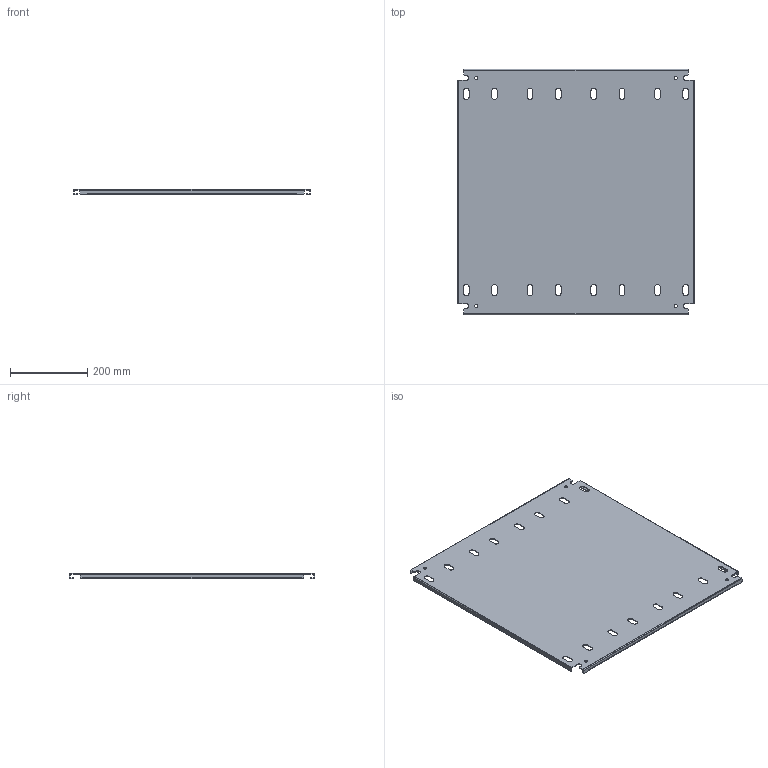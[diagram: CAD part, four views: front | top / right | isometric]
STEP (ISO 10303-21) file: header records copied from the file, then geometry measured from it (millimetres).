
FILE_DESCRIPTION(/* description */ ('1412BTSSCU 24.125" x 28" Right Inner Panel'),/* implementation_level */ '2;1');
FILE_NAME(/* name */ 'C:\Vault_Workspace\Inventor_Dwg\BoxCad\Result\1412BTSSCU08804DT\e-mail\3D\1412BTSSCU08804DTIP2.stp',/* time_stamp */ '2022-10-26T12:56:16-04:00',/* author */ ('BoxCad'),/* organization */ (''),/* preprocessor_version */ 'ST-DEVELOPER v18.1',/* originating_system */ 'Autodesk Inventor 2020',/* authorisation */ '');
FILE_SCHEMA (('AUTOMOTIVE_DESIGN { 1 0 10303 214 3 1 1 }'));
Length unit declared in the file: inch
Products named in the file (2): 1412BTSSCU08804DTIP2; 1412BTSSCU08804DTIP2-P
Assembly tree (1 placements, depth 2):
  1412BTSSCU08804DTIP2
    1412BTSSCU08804DTIP2-P
Bounding box: 612.77 x 635 x 13 mm (x, y, z)
Volume: 730473.5 mm3; surface area: 852832.7 mm2
Topology: 1 solids, 1 shells, 174 faces, 516 edges, 344 vertices
Faces by surface type: plane 98, cylinder 76
Full cylindrical faces by diameter (mm): 7.366 x4
Entity records: 6001 total; most frequent: CARTESIAN_POINT 1037, ORIENTED_EDGE 1032, DIRECTION 1022, EDGE_CURVE 516, LINE 364, VECTOR 364, VERTEX_POINT 344, AXIS2_PLACEMENT_3D 329
